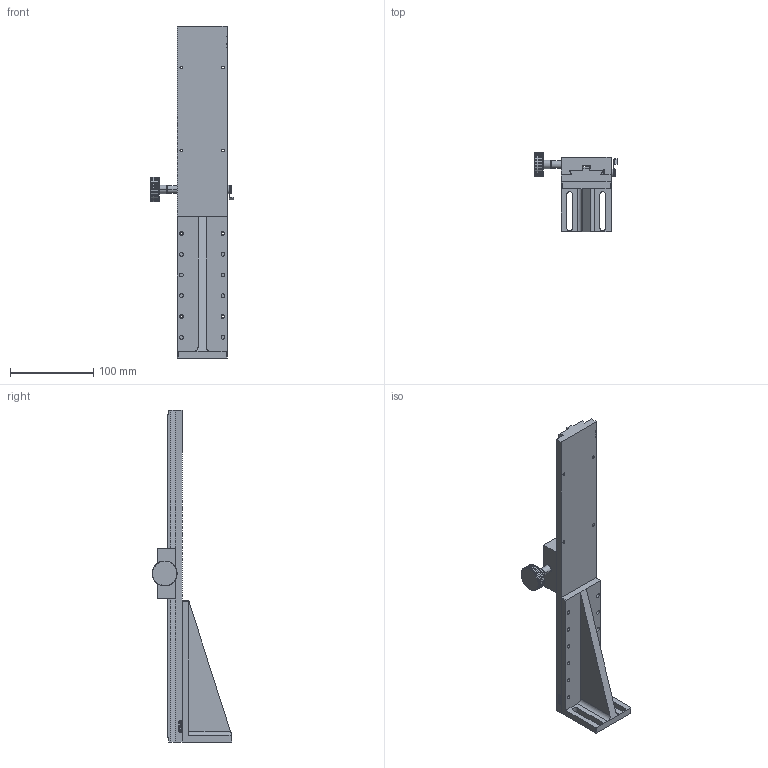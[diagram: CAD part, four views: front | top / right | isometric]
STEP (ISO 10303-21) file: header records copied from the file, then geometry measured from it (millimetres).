
FILE_DESCRIPTION (( 'STEP AP214' ), '1' );
FILE_NAME ('PT-DZ60-400.STEP', '2022-09-17T03:49:19', ( '' ), ( '' ), 'SwSTEP 2.0', 'SolidWorks 2017', '' );
FILE_SCHEMA (( 'AUTOMOTIVE_DESIGN' ));
Length unit declared in the file: millimetre
Products named in the file (8): LWX60 賑輸; 60L倰啣-170; LWX40.0.3; LWX40.0.4; PT-DZ60-400; LWX60-1; LWX60.0.1
Assembly tree (7 placements, depth 3):
  PT-DZ60-400
    LWX60-1
    LWX60 賑輸
      LWX60 賑輸
      LWX60.0.1
      LWX40.0.3
      LWX40.0.4
    60L倰啣-170
Bounding box: 100.5 x 96 x 400 mm (x, y, z)
Volume: 496053.5 mm3; surface area: 128694.6 mm2
Topology: 6 solids, 6 shells, 753 faces, 2059 edges, 1366 vertices
Faces by surface type: plane 336, cylinder 254, bspline 153, cone 10
Entity records: 35734 total; most frequent: CARTESIAN_POINT 12838, ORIENTED_EDGE 4118, DIRECTION 3191, EDGE_CURVE 2059, VERTEX_POINT 1366, VECTOR 1205, LINE 1205, AXIS2_PLACEMENT_3D 993
